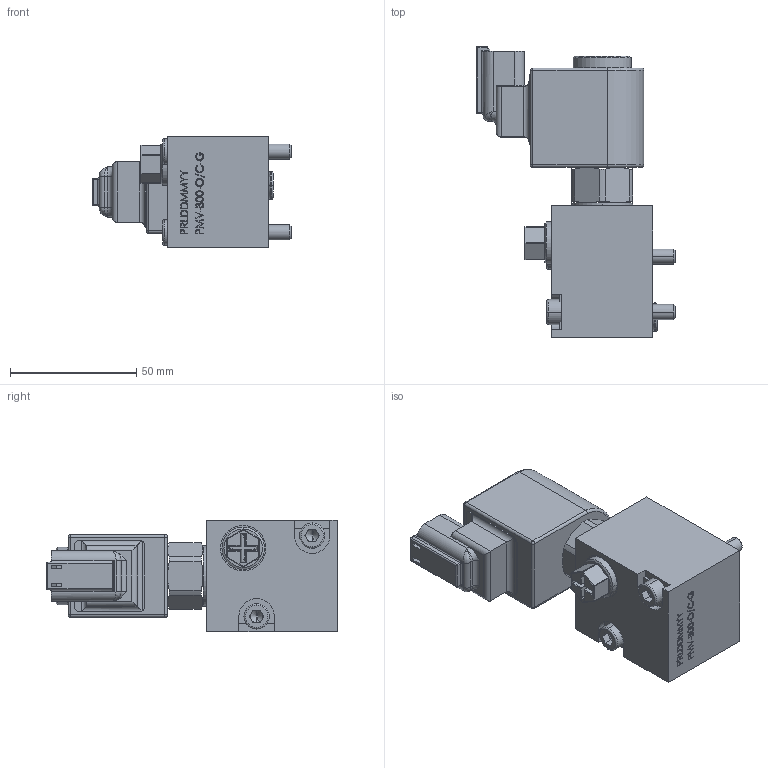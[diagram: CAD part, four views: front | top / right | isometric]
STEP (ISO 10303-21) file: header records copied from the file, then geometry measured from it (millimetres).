
FILE_DESCRIPTION (( 'STEP AP214' ), '1' );
FILE_NAME ('800.0537.STEP', '2023-10-27T10:53:14', ( '' ), ( '' ), 'SwSTEP 2.0', 'SolidWorks 2022', '' );
FILE_SCHEMA (( 'AUTOMOTIVE_DESIGN' ));
Length unit declared in the file: millimetre
Products named in the file (1): 800.0537
Bounding box: 78.8 x 115.15 x 44 mm (x, y, z)
Surface area: 28708.7 mm2 (no closed solid volume)
Topology: 0 solids, 11 shells, 500 faces, 1471 edges, 933 vertices
Faces by surface type: plane 250, cylinder 115, bspline 86, cone 24, torus 13, sphere 12
Entity records: 27275 total; most frequent: CARTESIAN_POINT 9355, ORIENTED_EDGE 2551, DIRECTION 2306, EDGE_CURVE 1454, LINE 944, VECTOR 944, VERTEX_POINT 933, AXIS2_PLACEMENT_3D 681
